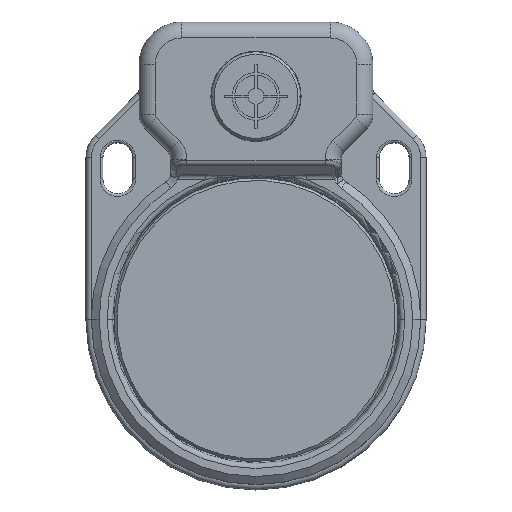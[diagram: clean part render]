
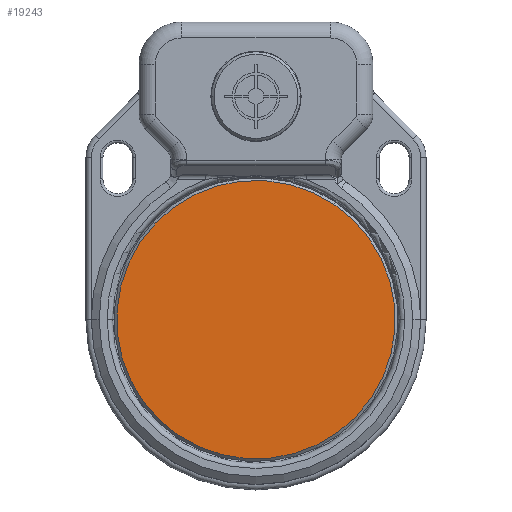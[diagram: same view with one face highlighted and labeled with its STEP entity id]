
A CAD part, top view. The second image highlights one B-rep face of the part: STEP entity #19243.
In plain terms, the highlighted planar face has unit normal (0, 0, 1).
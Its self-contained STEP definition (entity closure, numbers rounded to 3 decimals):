
#960 = DIRECTION ( 'NONE',  ( 0., 0., 1. ) ) ;
#1276 = EDGE_LOOP ( 'NONE', ( #14430, #10966 ) ) ;
#2851 = VERTEX_POINT ( 'NONE', #3513 ) ;
#3448 = CARTESIAN_POINT ( 'NONE',  ( 14.649, 21.722, 26.5 ) ) ;
#3513 = CARTESIAN_POINT ( 'NONE',  ( -14.649, -21.722, 26.5 ) ) ;
#3925 = CARTESIAN_POINT ( 'NONE',  ( 0., 0., 26.5 ) ) ;
#5986 = AXIS2_PLACEMENT_3D ( 'NONE', #3925, #17552, #7417 ) ;
#6157 = DIRECTION ( 'NONE',  ( 0., 0., 1. ) ) ;
#7417 = DIRECTION ( 'NONE',  ( -0.559, -0.829, 0. ) ) ;
#7697 = EDGE_CURVE ( 'NONE', #21054, #2851, #16413, .T. ) ;
#8998 = FACE_OUTER_BOUND ( 'NONE', #1276, .T. ) ;
#10966 = ORIENTED_EDGE ( 'NONE', *, *, #20766, .T. ) ;
#11285 = CARTESIAN_POINT ( 'NONE',  ( 0., 0., 26.5 ) ) ;
#12961 = DIRECTION ( 'NONE',  ( -0.559, -0.829, 0. ) ) ;
#14430 = ORIENTED_EDGE ( 'NONE', *, *, #7697, .T. ) ;
#14753 = CIRCLE ( 'NONE', #21182, 26.2 ) ;
#15832 = PLANE ( 'NONE',  #5986 ) ;
#16282 = CARTESIAN_POINT ( 'NONE',  ( 0., 0., 26.5 ) ) ;
#16413 = CIRCLE ( 'NONE', #20110, 26.2 ) ;
#17552 = DIRECTION ( 'NONE',  ( 0., 0., 1. ) ) ;
#17997 = DIRECTION ( 'NONE',  ( -0.559, -0.829, 0. ) ) ;
#19243 = ADVANCED_FACE ( 'NONE', ( #8998 ), #15832, .T. ) ;
#20110 = AXIS2_PLACEMENT_3D ( 'NONE', #11285, #960, #12961 ) ;
#20766 = EDGE_CURVE ( 'NONE', #2851, #21054, #14753, .T. ) ;
#21054 = VERTEX_POINT ( 'NONE', #3448 ) ;
#21182 = AXIS2_PLACEMENT_3D ( 'NONE', #16282, #6157, #17997 ) ;
